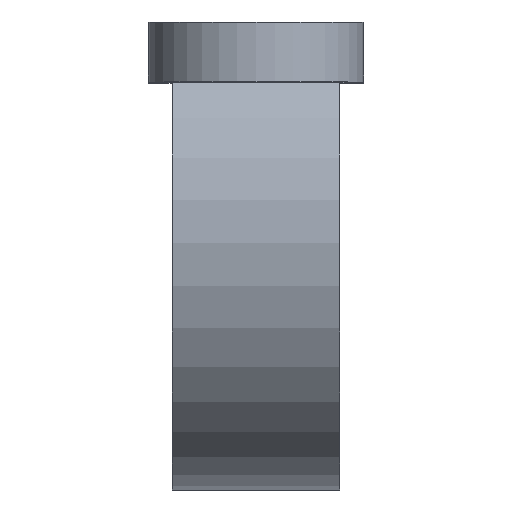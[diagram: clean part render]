
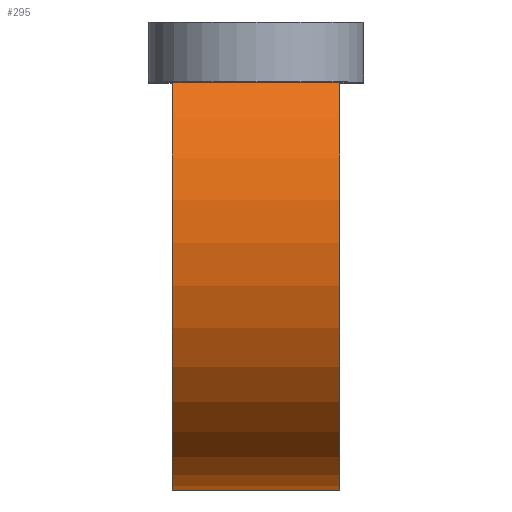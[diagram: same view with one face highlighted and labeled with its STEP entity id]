
A CAD part, top view. The second image highlights one B-rep face of the part: STEP entity #295.
In plain terms, the highlighted cylindrical face has radius 10.5 mm (diameter 21 mm), a partial arc.
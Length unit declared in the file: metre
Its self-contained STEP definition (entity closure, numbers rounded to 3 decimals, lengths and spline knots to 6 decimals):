
#23=LINE('',#449,#45);
#24=LINE('',#453,#46);
#45=VECTOR('',#363,1.);
#46=VECTOR('',#366,1.);
#79=ORIENTED_EDGE('',*,*,#163,.T.);
#80=ORIENTED_EDGE('',*,*,#164,.F.);
#81=ORIENTED_EDGE('',*,*,#165,.F.);
#82=ORIENTED_EDGE('',*,*,#166,.T.);
#163=EDGE_CURVE('',#205,#206,#232,.T.);
#164=EDGE_CURVE('',#207,#206,#23,.T.);
#165=EDGE_CURVE('',#208,#207,#233,.T.);
#166=EDGE_CURVE('',#208,#205,#24,.T.);
#205=VERTEX_POINT('',#447);
#206=VERTEX_POINT('',#448);
#207=VERTEX_POINT('',#450);
#208=VERTEX_POINT('',#452);
#232=CIRCLE('',#328,0.0105);
#233=CIRCLE('',#329,0.0105);
#243=EDGE_LOOP('',(#79,#80,#81,#82));
#266=FACE_BOUND('',#243,.T.);
#289=CYLINDRICAL_SURFACE('',#327,0.0105);
#295=ADVANCED_FACE('',(#266),#289,.T.);
#327=AXIS2_PLACEMENT_3D('',#445,#359,#360);
#328=AXIS2_PLACEMENT_3D('',#446,#361,#362);
#329=AXIS2_PLACEMENT_3D('',#451,#364,#365);
#359=DIRECTION('',(-1.,0.,0.));
#360=DIRECTION('',(0.,0.,1.));
#361=DIRECTION('',(1.,0.,0.));
#362=DIRECTION('',(0.,0.,-1.));
#363=DIRECTION('',(-1.,0.,0.));
#364=DIRECTION('',(1.,0.,0.));
#365=DIRECTION('',(0.,0.,-1.));
#366=DIRECTION('',(-1.,0.,0.));
#445=CARTESIAN_POINT('',(0.007,-0.0065,0.));
#446=CARTESIAN_POINT('',(0.,-0.0065,0.));
#447=CARTESIAN_POINT('',(0.,0.,0.008246));
#448=CARTESIAN_POINT('',(0.,0.,-0.008246));
#449=CARTESIAN_POINT('',(0.007,0.,-0.008246));
#450=CARTESIAN_POINT('',(0.007,0.,-0.008246));
#451=CARTESIAN_POINT('',(0.007,-0.0065,0.));
#452=CARTESIAN_POINT('',(0.007,0.,0.008246));
#453=CARTESIAN_POINT('',(0.007,0.,0.008246));
